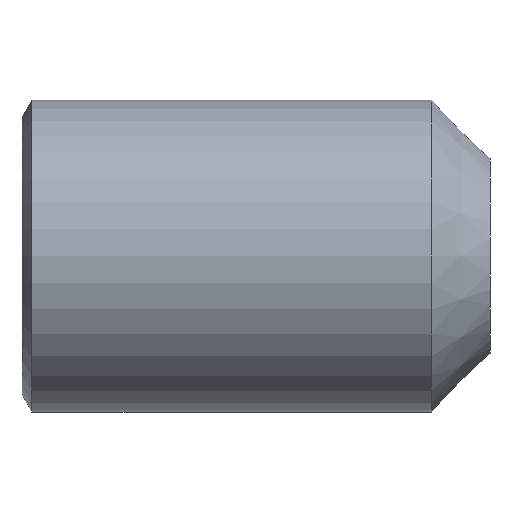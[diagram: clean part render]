
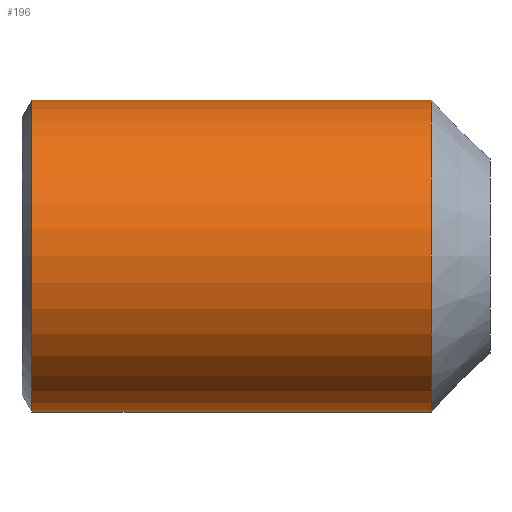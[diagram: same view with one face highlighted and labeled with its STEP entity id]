
A CAD part, left-side view. The second image highlights one B-rep face of the part: STEP entity #196.
In plain terms, the highlighted cylindrical face has radius 2 mm (diameter 4 mm), a full revolution.
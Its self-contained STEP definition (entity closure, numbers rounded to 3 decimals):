
#31=CYLINDRICAL_SURFACE('',#230,2.);
#33=FACE_OUTER_BOUND('',#45,.T.);
#45=EDGE_LOOP('',(#142,#143,#144,#145));
#58=LINE('',#303,#74);
#74=VECTOR('',#256,2.);
#90=CIRCLE('',#229,2.);
#91=CIRCLE('',#231,2.);
#94=VERTEX_POINT('',#297);
#95=VERTEX_POINT('',#301);
#113=EDGE_CURVE('',#94,#94,#90,.T.);
#114=EDGE_CURVE('',#95,#95,#91,.T.);
#115=EDGE_CURVE('',#95,#94,#58,.T.);
#142=ORIENTED_EDGE('',*,*,#114,.F.);
#143=ORIENTED_EDGE('',*,*,#115,.T.);
#144=ORIENTED_EDGE('',*,*,#113,.F.);
#145=ORIENTED_EDGE('',*,*,#115,.F.);
#196=ADVANCED_FACE('',(#33),#31,.T.);
#229=AXIS2_PLACEMENT_3D('',#299,#250,#251);
#230=AXIS2_PLACEMENT_3D('',#300,#252,#253);
#231=AXIS2_PLACEMENT_3D('',#302,#254,#255);
#250=DIRECTION('center_axis',(0.,-1.,0.));
#251=DIRECTION('ref_axis',(1.,0.,0.));
#252=DIRECTION('center_axis',(0.,1.,0.));
#253=DIRECTION('ref_axis',(1.,0.,0.));
#254=DIRECTION('center_axis',(0.,1.,0.));
#255=DIRECTION('ref_axis',(1.,0.,0.));
#256=DIRECTION('',(0.,-1.,0.));
#297=CARTESIAN_POINT('',(-2.,0.75,0.));
#299=CARTESIAN_POINT('Origin',(0.,0.75,0.));
#300=CARTESIAN_POINT('Origin',(0.,0.,0.));
#301=CARTESIAN_POINT('',(-2.,5.874,0.));
#302=CARTESIAN_POINT('Origin',(0.,5.874,0.));
#303=CARTESIAN_POINT('',(-2.,0.,0.));
